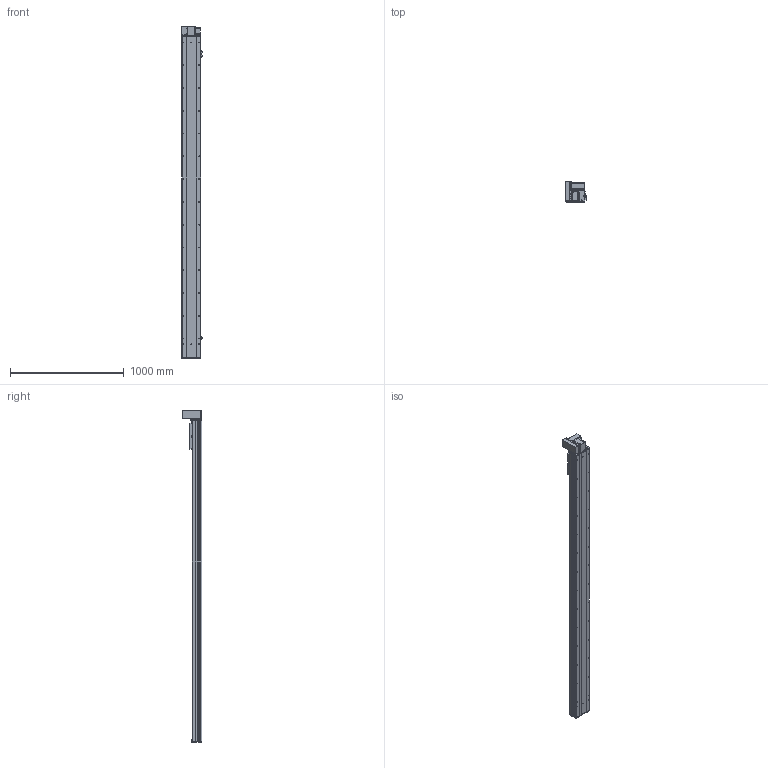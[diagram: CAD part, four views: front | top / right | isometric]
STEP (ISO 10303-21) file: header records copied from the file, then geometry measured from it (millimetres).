
FILE_DESCRIPTION (( 'STEP AP203' ), '1' );
FILE_NAME ('Y170CB-D105-S2500-UL-P400W.STEP', '2020-02-20T03:07:01', ( '微软用户' ), ( '微软中国' ), 'SwSTEP 2.0', 'SolidWorks 2017', '' );
FILE_SCHEMA (( 'CONFIG_CONTROL_DESIGN' ));
Length unit declared in the file: millimetre
Products named in the file (18): 00B-俋欶BM--163; 70C-雄赽釱-奻-; B-源倛裔啣; Y170CB-D105-S2500-UL-P400W; 0C--雄赽釱俋欶-170; 0B-萇儂楊擘啣; 70CB-詩湍--; san松下电机400不带刹车----; Y100-135俋离換覜ん--; 70CB-掛极-; Y170CB-陔俋离換覜結え---; --70CB --喘謫眊楊擘啣-; 70B喘謫眊----; 70CB-耜裔啣-; Y1埴倛裔; 70C--詩湍揤踡え-; 17B-耜蚾蟀諉啣----; 70CB--耜裔
Assembly tree (21 placements, depth 2):
  Y170CB-D105-S2500-UL-P400W
    B-源倛裔啣
    0B-萇儂楊擘啣
    san松下电机400不带刹车----
    70CB-掛极-
    --70CB --喘謫眊楊擘啣-
    70CB-耜裔啣-  x2
    70C--詩湍揤踡え-  x2
    70CB--耜裔
    70C-雄赽釱-奻-
    0C--雄赽釱俋欶-170
    70CB-詩湍--
    Y100-135俋离換覜ん--  x3
    Y170CB-陔俋离換覜結え---
    70B喘謫眊----
    Y1埴倛裔
    17B-耜蚾蟀諉啣----
    00B-俋欶BM--163
Bounding box: 183.5 x 174 x 2916 mm (x, y, z)
Volume: 12444921.4 mm3; surface area: 4494437.2 mm2
Topology: 21 solids, 21 shells, 1071 faces, 2885 edges, 1914 vertices
Faces by surface type: cylinder 585, plane 462, cone 24
Entity records: 34372 total; most frequent: CARTESIAN_POINT 6336, DIRECTION 5594, ORIENTED_EDGE 5252, EDGE_CURVE 2626, AXIS2_PLACEMENT_3D 2068, VERTEX_POINT 1744, VECTOR 1458, LINE 1458
